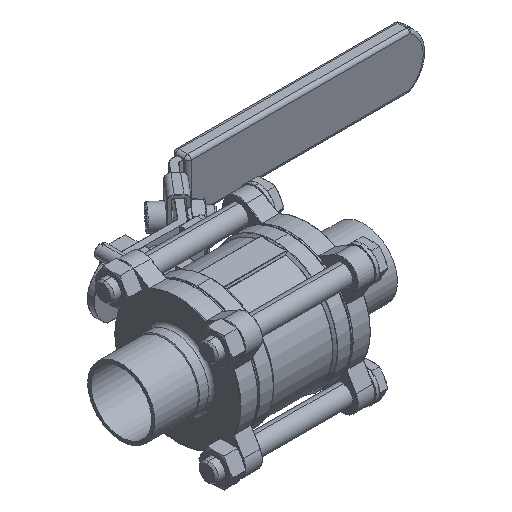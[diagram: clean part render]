
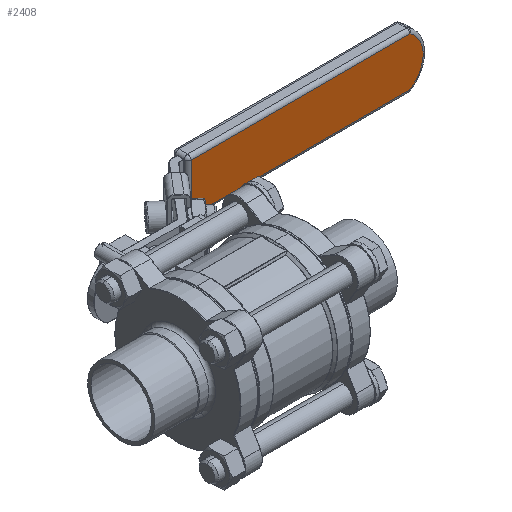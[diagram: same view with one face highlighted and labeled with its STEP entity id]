
A CAD part, isometric view. The second image highlights one B-rep face of the part: STEP entity #2408.
In plain terms, the highlighted planar face has unit normal (0, -1, 0) as drawn and (0, 0, 1) by its records, which use the part's own axes.
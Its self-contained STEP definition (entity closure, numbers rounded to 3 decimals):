
#433 = CIRCLE ( 'NONE', #5635, 16.5 ) ;
#509 = CIRCLE ( 'NONE', #23136, 16.5 ) ;
#1403 = ORIENTED_EDGE ( 'NONE', *, *, #24476, .T. ) ;
#2265 = ORIENTED_EDGE ( 'NONE', *, *, #6119, .T. ) ;
#2384 = EDGE_CURVE ( 'NONE', #10018, #12688, #509, .T. ) ;
#2408 = ADVANCED_FACE ( 'NONE', ( #13452 ), #15414, .T. ) ;
#3585 = LINE ( 'NONE', #7355, #10325 ) ;
#4381 = LINE ( 'NONE', #4538, #23538 ) ;
#4538 = CARTESIAN_POINT ( 'NONE',  ( 0., -14., 4.5 ) ) ;
#5635 = AXIS2_PLACEMENT_3D ( 'NONE', #23058, #22728, #20819 ) ;
#5857 = VERTEX_POINT ( 'NONE', #22189 ) ;
#6119 = EDGE_CURVE ( 'NONE', #19006, #21112, #3585, .T. ) ;
#7070 = AXIS2_PLACEMENT_3D ( 'NONE', #11247, #7636, #19317 ) ;
#7355 = CARTESIAN_POINT ( 'NONE',  ( 2., 0., 4.5 ) ) ;
#7636 = DIRECTION ( 'NONE',  ( 0., 0., 1. ) ) ;
#9309 = ORIENTED_EDGE ( 'NONE', *, *, #13873, .T. ) ;
#9349 = DIRECTION ( 'NONE',  ( 0., 0., 1. ) ) ;
#9625 = ORIENTED_EDGE ( 'NONE', *, *, #24580, .T. ) ;
#10018 = VERTEX_POINT ( 'NONE', #10738 ) ;
#10325 = VECTOR ( 'NONE', #13297, 1000. ) ;
#10738 = CARTESIAN_POINT ( 'NONE',  ( 136., 0., 4.5 ) ) ;
#10835 = VECTOR ( 'NONE', #16087, 1000. ) ;
#11247 = CARTESIAN_POINT ( 'NONE',  ( 0., 0., 4.5 ) ) ;
#12688 = VERTEX_POINT ( 'NONE', #19629 ) ;
#13086 = ORIENTED_EDGE ( 'NONE', *, *, #2384, .T. ) ;
#13297 = DIRECTION ( 'NONE',  ( 0., -1., 0. ) ) ;
#13412 = CARTESIAN_POINT ( 'NONE',  ( 119.5, 0., 4.5 ) ) ;
#13452 = FACE_OUTER_BOUND ( 'NONE', #24435, .T. ) ;
#13873 = EDGE_CURVE ( 'NONE', #5857, #10018, #433, .T. ) ;
#15073 = CARTESIAN_POINT ( 'NONE',  ( 2., 14., 4.5 ) ) ;
#15414 = PLANE ( 'NONE',  #7070 ) ;
#16021 = CARTESIAN_POINT ( 'NONE',  ( 2., -14., 4.5 ) ) ;
#16087 = DIRECTION ( 'NONE',  ( -1., 0., 0. ) ) ;
#19006 = VERTEX_POINT ( 'NONE', #15073 ) ;
#19317 = DIRECTION ( 'NONE',  ( 1., 0., 0. ) ) ;
#19629 = CARTESIAN_POINT ( 'NONE',  ( 128.232, 14., 4.5 ) ) ;
#20819 = DIRECTION ( 'NONE',  ( 1., 0., 0. ) ) ;
#21112 = VERTEX_POINT ( 'NONE', #16021 ) ;
#21237 = DIRECTION ( 'NONE',  ( 1., 0., 0. ) ) ;
#22082 = CARTESIAN_POINT ( 'NONE',  ( 0., 14., 4.5 ) ) ;
#22189 = CARTESIAN_POINT ( 'NONE',  ( 128.232, -14., 4.5 ) ) ;
#22728 = DIRECTION ( 'NONE',  ( 0., 0., 1. ) ) ;
#23058 = CARTESIAN_POINT ( 'NONE',  ( 119.5, 0., 4.5 ) ) ;
#23136 = AXIS2_PLACEMENT_3D ( 'NONE', #13412, #9349, #21237 ) ;
#23538 = VECTOR ( 'NONE', #24296, 1000. ) ;
#24148 = LINE ( 'NONE', #22082, #10835 ) ;
#24296 = DIRECTION ( 'NONE',  ( 1., 0., 0. ) ) ;
#24435 = EDGE_LOOP ( 'NONE', ( #1403, #2265, #9625, #9309, #13086 ) ) ;
#24476 = EDGE_CURVE ( 'NONE', #12688, #19006, #24148, .T. ) ;
#24580 = EDGE_CURVE ( 'NONE', #21112, #5857, #4381, .T. ) ;
